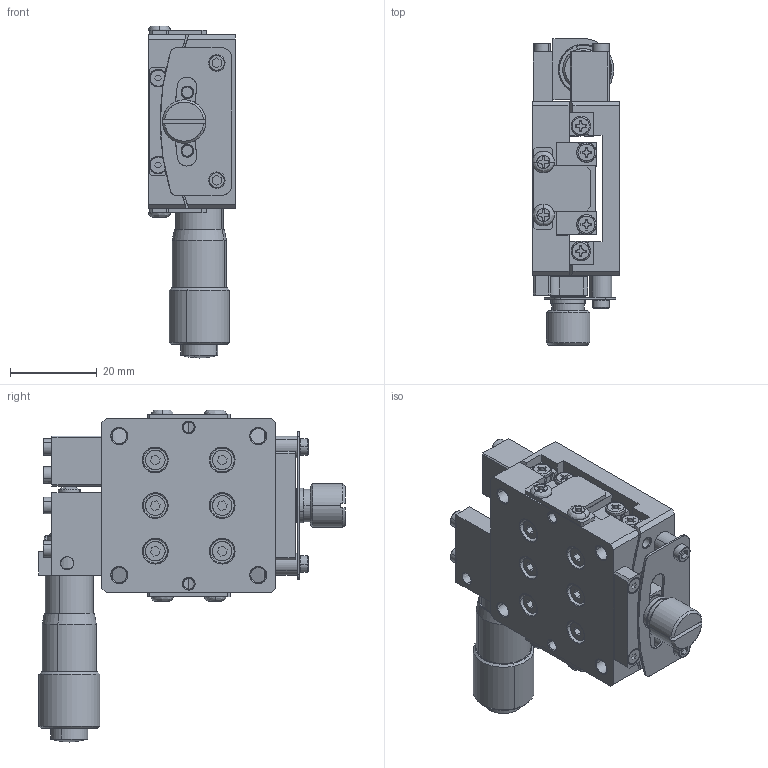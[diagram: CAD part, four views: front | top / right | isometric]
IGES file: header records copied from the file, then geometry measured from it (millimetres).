
Start section: SolidWorks IGES file using analytic representation for surfaces
Global section: file name: E:\0产品2d3d图纸-20180629\10PHT\40A\IGS\PHT-40A40SR.IGS; native system: SolidWorks 2015; preprocessor: SolidWorks 2015; author: Administrator; date: 190121.141049; units: millimetre
Bounding box: 20 x 70.5 x 76.41 mm (x, y, z)
Surface area: 30126.1 mm2 (no closed solid volume)
Topology: 0 solids, 0 shells, 1432 faces, 19410 edges, 19408 vertices
Faces by surface type: revolution 732, bspline 700
